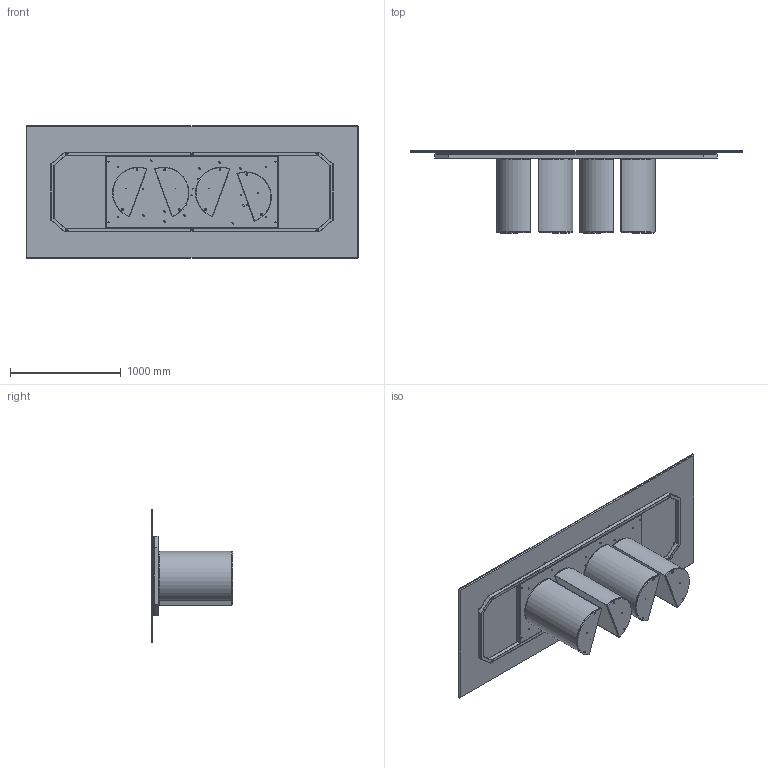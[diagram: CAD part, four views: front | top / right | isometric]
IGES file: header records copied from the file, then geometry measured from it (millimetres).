
Start section: SolidWorks IGES file using analytic representation for surfaces
Global section: file name: Y:\eforma\TECNICO\SOLIDWORKS\E-FORMA\1-TAVOLI\PLAI\02 parts\PL24C.IGS; native system: SolidWorks 2022; preprocessor: SolidWorks 2022; author: eforma.tech; date: 240807.155647; units: millimetre
Bounding box: 3000 x 740 x 1200 mm (x, y, z)
Volume: 74762506.7 mm3; surface area: 26238052.6 mm2
Topology: 64 solids, 64 shells, 1354 faces, 3080 edges, 1824 vertices
Faces by surface type: revolution 772, plane 582
